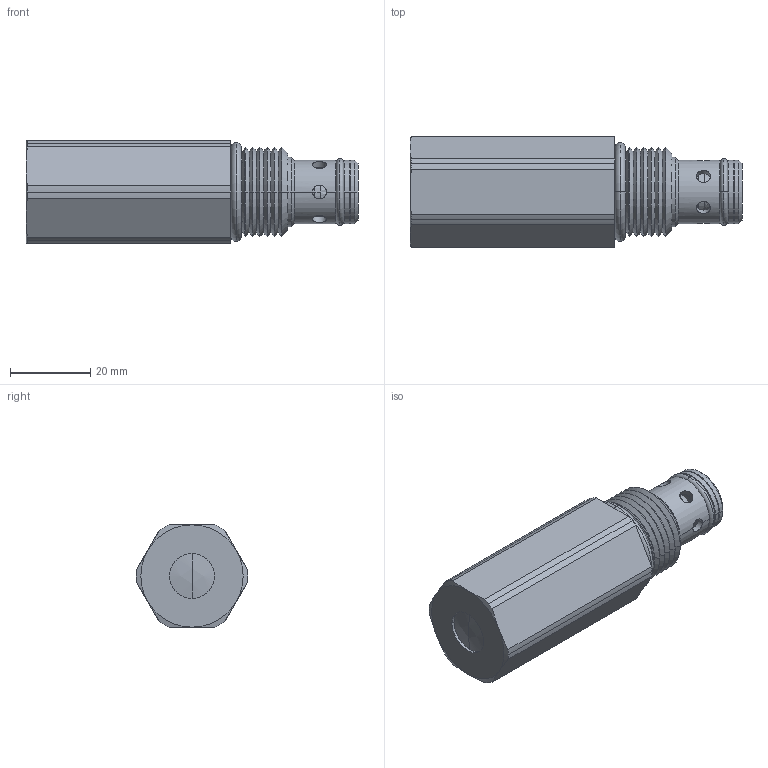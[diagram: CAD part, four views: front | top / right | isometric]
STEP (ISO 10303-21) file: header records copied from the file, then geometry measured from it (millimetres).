
FILE_DESCRIPTION((''),'2;1');
FILE_NAME('U:\Solid model CD\Solid model full\Mechanical\STEP\DERWA0T-3D Full.stp','2008-07-28T16:22:42',('Dan'),(''),'Autodesk Inventor 9','Autodesk Inventor 9','');
FILE_SCHEMA(('AUTOMOTIVE_DESIGN { 1 0 10303 214 1 1 1 1 }'));
Length unit declared in the file: inch
Products named in the file (5): DERWA0T-3D Full; DERWA0T-3D Full1; DERWA0T-3D Full2; DERWA0T-3D Full3; DERWA0T-3D Full4
Assembly tree (4 placements, depth 2):
  DERWA0T-3D Full
    DERWA0T-3D Full1
    DERWA0T-3D Full2
    DERWA0T-3D Full3
    DERWA0T-3D Full4
Bounding box: 82.5 x 27.76 x 25.4 mm (x, y, z)
Volume: 36014.9 mm3; surface area: 9338.6 mm2
Topology: 4 solids, 5 shells, 121 faces, 286 edges, 173 vertices
Faces by surface type: cylinder 48, cone 38, plane 19, torus 8, sphere 6, bspline 2
Entity records: 4004 total; most frequent: CARTESIAN_POINT 1049, DIRECTION 636, ORIENTED_EDGE 572, EDGE_CURVE 286, AXIS2_PLACEMENT_3D 270, VERTEX_POINT 173, CIRCLE 142, EDGE_LOOP 141
